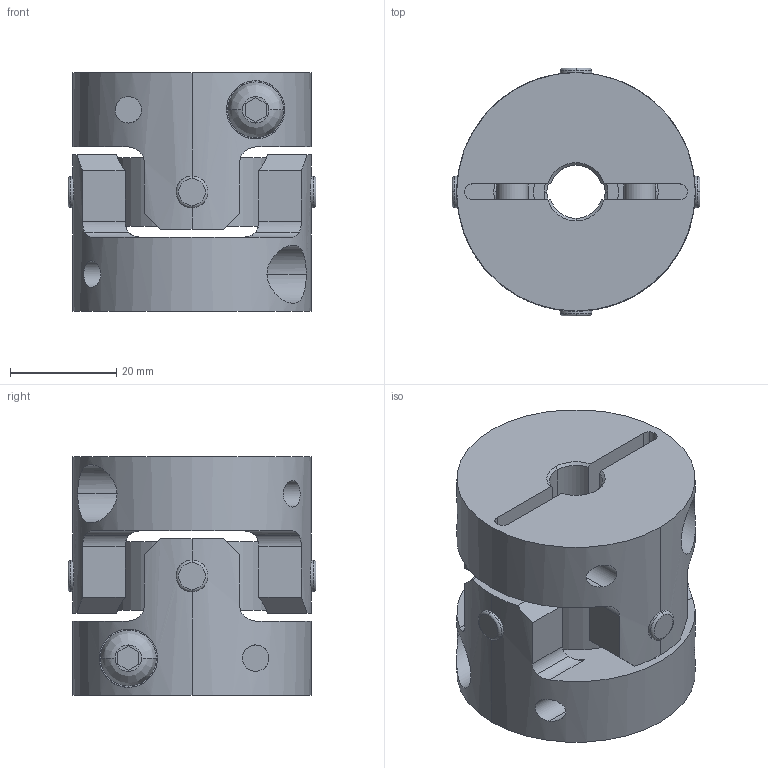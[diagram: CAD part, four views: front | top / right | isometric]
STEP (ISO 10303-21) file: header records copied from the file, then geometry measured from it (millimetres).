
FILE_DESCRIPTION((''),'2;1');
FILE_NAME('UA-45C-10×11.stp','2013-05-22T10:27:18',(''),(''),'AutoCAD STEP 2000i','AutoCAD 2000i',', , ');
FILE_SCHEMA(('CONFIG_CONTROL_DESIGN'));
Length unit declared in the file: millimetre
Products named in the file (6): UA-45C-8×8; 忣兜1; UA-4502-D08-1; BTN-M6; UA-4502-D08; UA45-SEN
Assembly tree (6 placements, depth 3):
  UA-45C-8×8
    忣兜1
    UA-4502-D08-1
      BTN-M6
    UA-4502-D08
      BTN-M6
    UA45-SEN
Bounding box: 46.73 x 46.73 x 45 mm (x, y, z)
Volume: 50883.6 mm3; surface area: 20311.8 mm2
Topology: 1 solids, 1 shells, 206 faces, 554 edges, 364 vertices
Faces by surface type: cylinder 96, plane 78, cone 16, bspline 8, torus 8
Entity records: 8523 total; most frequent: CARTESIAN_POINT 3207, ORIENTED_EDGE 1108, DIRECTION 1064, EDGE_CURVE 554, AXIS2_PLACEMENT_3D 409, VERTEX_POINT 364, VECTOR 246, LINE 246
